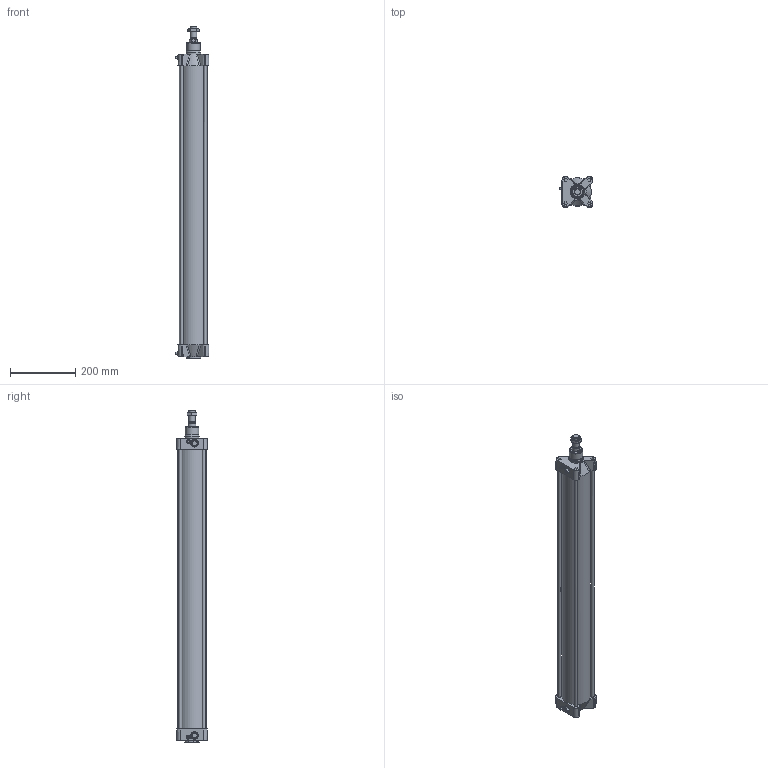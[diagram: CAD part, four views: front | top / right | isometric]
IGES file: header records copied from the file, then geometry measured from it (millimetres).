
Global section: file name: 1393_080_0800_01; native system: Autodesk Inventor 2014; preprocessor: unknown; author: A. Manieri; date: 20151130.150831; units: millimetre
Bounding box: 104 x 95 x 1018 mm (x, y, z)
Volume: 2104367.9 mm3; surface area: 710932.8 mm2
Topology: 3 solids, 5 shells, 233 faces, 578 edges, 377 vertices
Faces by surface type: bspline 233
